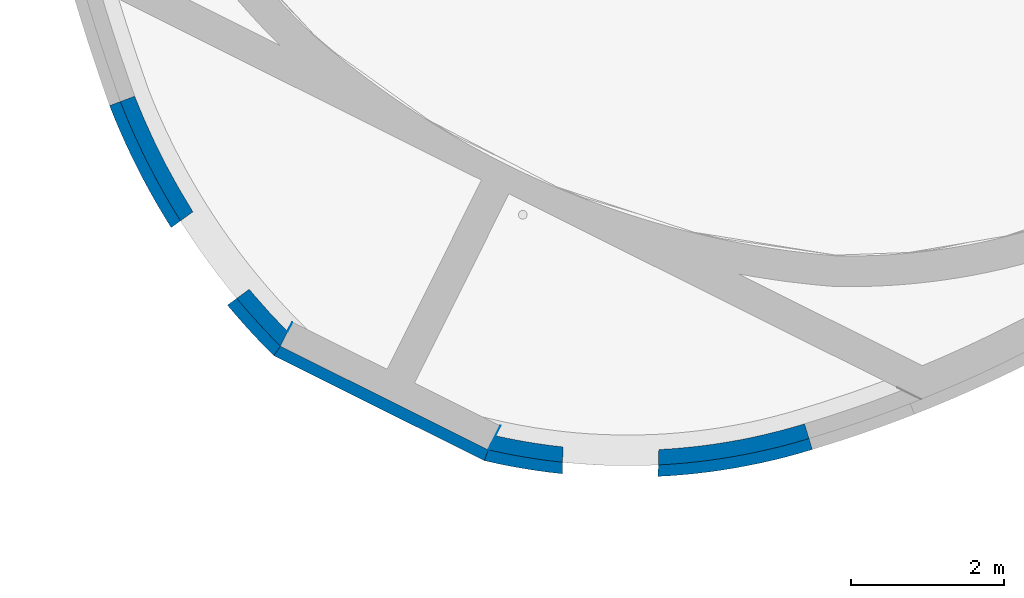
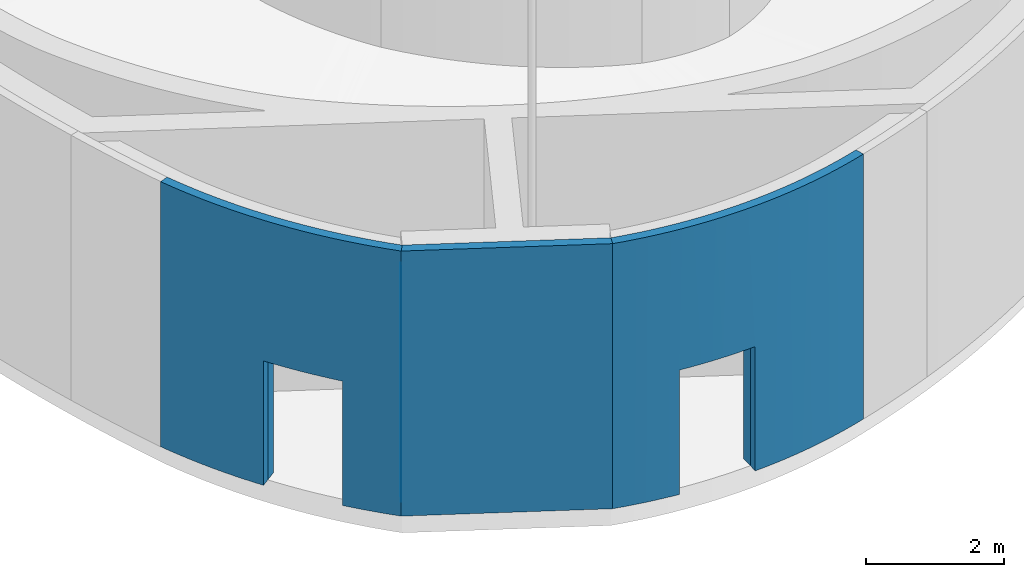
# One storey, part 4 of 91: 7 walls, 4 openings.
"""IFC2X3 building model written with IfcOpenShell, lengths in metres."""

from ifc_helpers import new_model, entity, si_unit, converted_unit, derived_unit, direction, frame, frame_2d, origin, origin_2d_with_axis, place, context, subcontext, project, spatial, polyline, circle_curve, parameter, trimmed, segment, composite_curve, rectangle, outline, extrude, clip, bounded_halfspace, material, layer, layer_set, layer_usage, type_object, element, save


model = new_model("IFC2X3")

# Units and contexts
model_context = context("Model", 3, precision=1e-05, world=origin(), true_north=direction((0.894925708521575, 0.446215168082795)))
context_of_model = context(None, 3, precision=1e-05, world=origin(), true_north=direction((0.894925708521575, 0.446215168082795)))
body_context = subcontext(model_context, "Body", "Model", "MODEL_VIEW")
ifc_project = project(units=[si_unit("LENGTHUNIT", "METRE"), si_unit("AREAUNIT", "SQUARE_METRE"), si_unit("VOLUMEUNIT", "CUBIC_METRE"), converted_unit("PLANEANGLEUNIT", "DEGREE", entity("IfcRatioMeasure", 0.0174532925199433), si_unit("PLANEANGLEUNIT", "RADIAN"), dimensions=[0, 0, 0, 0, 0, 0, 0]), si_unit("MASSUNIT", "GRAM", prefix="KILO"), si_unit("TIMEUNIT", "SECOND"), si_unit("FREQUENCYUNIT", "HERTZ"), si_unit("THERMODYNAMICTEMPERATUREUNIT", "DEGREE_CELSIUS"), derived_unit("THERMALTRANSMITTANCEUNIT", [(si_unit("MASSUNIT", "GRAM", prefix="KILO"), 1), (si_unit("THERMODYNAMICTEMPERATUREUNIT", "KELVIN"), -1), (si_unit("TIMEUNIT", "SECOND"), -3)]), derived_unit("VOLUMETRICFLOWRATEUNIT", [(si_unit("LENGTHUNIT", "METRE"), 3), (si_unit("TIMEUNIT", "SECOND"), -1)]), si_unit("ELECTRICCURRENTUNIT", "AMPERE"), si_unit("ELECTRICVOLTAGEUNIT", "VOLT"), si_unit("POWERUNIT", "WATT"), si_unit("FORCEUNIT", "NEWTON", prefix="KILO"), si_unit("ILLUMINANCEUNIT", "LUX"), si_unit("LUMINOUSFLUXUNIT", "LUMEN"), si_unit("LUMINOUSINTENSITYUNIT", "CANDELA"), si_unit("PRESSUREUNIT", "PASCAL")], contexts=[model_context, context_of_model])

# Site, building, storey
site_placement = place(None, frame((218.228324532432, 584.720189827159, 0.0), z_axis=(0.0, 0.0, 1.0), x_axis=(0.446215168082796, 0.894925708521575, 0.0)))
site = spatial("IfcSite", under=ifc_project, at=site_placement, Name="Default", CompositionType="ELEMENT")
building_placement = place(site_placement, origin())
building = spatial("IfcBuilding", under=site, at=building_placement, CompositionType="ELEMENT")
storey_placement = place(building_placement, origin())
storey = spatial("IfcBuildingStorey", under=building, at=storey_placement, Name="0 - Piano Terra", CompositionType="ELEMENT", Elevation=0.0)

# Wall, opening
ifc_material_1 = material(Name="Sabbia e Calcestruzzo")
ifc_layer_1 = layer(ifc_material_1, 0.2)
ifc_layer_set_1 = layer_set([ifc_layer_1], Name="Muro di base:Blocchetti - 20 cm")
ifc_layer_usage_1 = layer_usage(ifc_layer_set_1, "AXIS2", "POSITIVE", -0.1)
wall_type_1 = type_object("IfcWallType", Name="Muro di base:Blocchetti - 20 cm", PredefinedType="STANDARD", material=ifc_layer_set_1)
wall_1_placement = place(storey_placement, frame((-84.9551381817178, -2.00278189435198, 0.0)))
wall_1 = element("IfcWallStandardCase", 1, at=wall_1_placement, inside=storey, type_object=wall_type_1, material=ifc_layer_usage_1, Name="Muro di base:Blocchetti - 20 cm", ObjectType="Muro di base:Blocchetti - 20 cm", context=body_context, shape_type="SweptSolid", body=[
    extrude(outline(composite_curve([segment(trimmed(circle_curve(frame_2d((8.75699961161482, -2.92722085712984), x_axis=(1.0, 0.0)), 9.33329107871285), [parameter(137.924812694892)], [parameter(161.516654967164)], True, "PARAMETER"), True, "CONTINUOUS"), segment(polyline([(-0.0948415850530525, 0.0317028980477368), (0.116295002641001, 0.0317028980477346)]), True, "CONTINUOUS"), segment(polyline([(0.116295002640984, 0.0317028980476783), (0.117151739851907, 0.0342035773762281)]), True, "CONTINUOUS"), segment(polyline([(0.117151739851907, 0.0342035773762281), (0.118009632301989, 0.0367050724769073)]), True, "CONTINUOUS"), segment(polyline([(0.118009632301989, 0.0367050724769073), (0.232515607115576, 0.351525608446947)]), True, "CONTINUOUS"), segment(polyline([(0.232515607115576, 0.351525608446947), (0.358491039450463, 0.661937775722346)]), True, "CONTINUOUS"), segment(polyline([(0.358491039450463, 0.661937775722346), (0.495765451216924, 0.967521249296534)]), True, "CONTINUOUS"), segment(polyline([(0.495765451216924, 0.967521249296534), (0.644154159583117, 1.26786491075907)]), True, "CONTINUOUS"), segment(polyline([(0.644154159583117, 1.26786491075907), (0.803457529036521, 1.56256469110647)]), True, "CONTINUOUS"), segment(polyline([(0.803457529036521, 1.56256469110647), (0.973461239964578, 1.85122411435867)]), True, "CONTINUOUS"), segment(polyline([(0.973461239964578, 1.85122411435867), (1.15393657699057, 2.13345483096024)]), True, "CONTINUOUS"), segment(polyline([(1.15393657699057, 2.13345483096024), (1.34464073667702, 2.40887714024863)]), True, "CONTINUOUS"), segment(polyline([(1.34464073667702, 2.40887714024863), (1.54531715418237, 2.67712050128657)]), True, "CONTINUOUS"), segment(polyline([(1.54531715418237, 2.67712050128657), (1.75569584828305, 2.93782403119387)]), True, "CONTINUOUS"), segment(polyline([(1.75569584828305, 2.93782403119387), (1.97549378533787, 3.19063699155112)]), True, "CONTINUOUS"), segment(polyline([(1.9754937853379, 3.19063699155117), (1.82921396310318, 3.32706634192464)]), True, "CONTINUOUS")], self_intersect=False)), origin(), (0.0, 0.0, 1.0), 4.13),
])
opening_1_placement = place(wall_1_placement, frame((-1.14214802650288, 0.116912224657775, 0.0)))
element("IfcOpeningElement", 2, at=opening_1_placement, cuts=wall_1, Name="Muro di base:Blocchetti - 20 cm", ObjectType="Opening", context=body_context, shape_type="SweptSolid", body=[
    extrude(rectangle(XDim=3.04799999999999, YDim=1.24999999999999, at=origin_2d_with_axis()), frame((1.64035043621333, 1.25842036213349, 0.0), z_axis=(0.0, 0.0, 1.0), x_axis=(-0.886865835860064, 0.462027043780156, 0.0)), (0.0, 0.0, 1.0), 2.2),
])

ifc_layer_usage_2 = layer_usage(ifc_layer_set_1, "AXIS2", "NEGATIVE", 0.1)
wall_2_placement = place(storey_placement, frame((-84.9515530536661, -4.98268612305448, 0.0)))
wall_2 = element("IfcWallStandardCase", 3, at=wall_2_placement, inside=storey, type_object=wall_type_1, material=ifc_layer_usage_2, Name="Muro di base:Blocchetti - 20 cm", ObjectType="Muro di base:Blocchetti - 20 cm", context=body_context, shape_type="SweptSolid", body=[
    extrude(outline(composite_curve([segment(trimmed(circle_curve(frame_2d((7.75120961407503, 1.8649767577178), x_axis=(1.0, 0.0)), 7.8724142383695), [parameter(193.878969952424)], [parameter(223.563617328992)], True, "PARAMETER"), False, "CONTINUOUS"), segment(polyline([(0.108633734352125, -0.0233928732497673), (-0.0972253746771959, -0.0233928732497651)]), True, "CONTINUOUS"), segment(trimmed(circle_curve(frame_2d((7.75120961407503, 1.8649767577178), x_axis=(1.0, 0.0)), 8.0724142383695), [parameter(193.528483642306)], [parameter(223.558768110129)], True, "PARAMETER"), True, "CONTINUOUS"), segment(polyline([(1.90138976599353, -3.69770958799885), (2.04678250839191, -3.56037275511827)]), True, "CONTINUOUS")], self_intersect=False)), origin(), (0.0, 0.0, 1.0), 4.13),
])
opening_2_placement = place(wall_2_placement, frame((-1.19348438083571, -2.73420973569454, 0.0)))
element("IfcOpeningElement", 4, at=opening_2_placement, cuts=wall_2, Name="Muro di base:Blocchetti - 20 cm", ObjectType="Opening", context=body_context, shape_type="SweptSolid", body=[
    extrude(rectangle(XDim=3.04799999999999, YDim=1.25, at=origin_2d_with_axis()), frame((1.6454641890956, 1.2088338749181, 0.0), z_axis=(0.0, 0.0, 1.0), x_axis=(-0.906941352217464, -0.421256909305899, 0.0)), (0.0, 0.0, 1.0), 2.2),
])

# Wall
ifc_material_2 = material(Name="Alluminio")
ifc_layer_2 = layer(ifc_material_2, 0.15)
ifc_layer_set_2 = layer_set([ifc_layer_2], Name="Muro di base:Rivestimento 15 cm")
ifc_layer_usage_3 = layer_usage(ifc_layer_set_2, "AXIS2", "NEGATIVE", 0.075)
wall_type_2 = type_object("IfcWallType", Name="Muro di base:Rivestimento 15 cm", PredefinedType="STANDARD", material=ifc_layer_set_2)
wall_3_placement = place(storey_placement, frame((-85.1249797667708, -5.01873922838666, 0.0), z_axis=(0.0, 0.0, 1.0), x_axis=(0.0, 1.0, 0.0)))
element("IfcWallStandardCase", 5, at=wall_3_placement, inside=storey, type_object=wall_type_2, material=ifc_layer_usage_3, Name="Muro di base:Rivestimento 15 cm", ObjectType="Muro di base:Rivestimento 15 cm", context=body_context, shape_type="SweptSolid", body=[
    extrude(outline(polyline([(3.04766023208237, -0.0750000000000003), (3.07196706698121, 0.0750000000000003), (0.0, 0.0750000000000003), (0.0176602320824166, -0.0750000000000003), (3.04766023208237, -0.0750000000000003)])), origin(), (0.0, 0.0, 1.0), 4.69),
])

# Wall, opening
ifc_layer_usage_4 = layer_usage(ifc_layer_set_2, "AXIS2", "POSITIVE", -0.075)
wall_4_placement = place(storey_placement, frame((-85.128787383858, -1.97036547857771, 0.0)))
wall_4 = element("IfcWallStandardCase", 6, at=wall_4_placement, inside=storey, type_object=wall_type_2, material=ifc_layer_usage_4, Name="Muro di base:Rivestimento 15 cm", ObjectType="Muro di base:Rivestimento 15 cm", context=body_context, shape_type="SweptSolid", body=[
    extrude(outline(composite_curve([segment(trimmed(circle_curve(frame_2d((8.93064881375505, -2.9596372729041), x_axis=(1.0, 0.0)), 9.48329107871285), [parameter(137.910018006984)], [parameter(161.664686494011)], True, "PARAMETER"), True, "CONTINUOUS"), segment(polyline([(-0.0711923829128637, 0.023593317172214), (0.0788076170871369, -0.000713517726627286)]), True, "CONTINUOUS"), segment(trimmed(circle_curve(frame_2d((8.93064881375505, -2.9596372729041), x_axis=(1.0, 0.0)), 9.33329107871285), [parameter(137.924812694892)], [parameter(161.516654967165)], True, "PARAMETER"), False, "CONTINUOUS"), segment(polyline([(2.0028631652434, 3.29464992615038), (1.89316439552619, 3.39698311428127)]), True, "CONTINUOUS")], self_intersect=False)), origin(), (0.0, 0.0, 1.0), 4.69),
])
opening_3_placement = place(wall_4_placement, frame((-0.968498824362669, 0.0844958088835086, 0.0)))
element("IfcOpeningElement", 7, at=opening_3_placement, cuts=wall_4, Name="Muro di base:Rivestimento 15 cm", ObjectType="Opening", context=body_context, shape_type="SweptSolid", body=[
    extrude(rectangle(XDim=3.04799999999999, YDim=1.24999999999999, at=origin_2d_with_axis()), frame((1.64035043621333, 1.25842036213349, 0.0), z_axis=(0.0, 0.0, 1.0), x_axis=(-0.886865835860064, 0.462027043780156, 0.0)), (0.0, 0.0, 1.0), 2.2),
])

ifc_layer_usage_5 = layer_usage(ifc_layer_set_2, "AXIS2", "POSITIVE", -0.075)
wall_5_placement = place(storey_placement, frame((-83.1045133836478, -8.73207807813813, 0.0)))
wall_5 = element("IfcWallStandardCase", 8, at=wall_5_placement, inside=storey, type_object=wall_type_2, material=ifc_layer_usage_5, Name="Muro di base:Rivestimento 15 cm", ObjectType="Muro di base:Rivestimento 15 cm", context=body_context, shape_type="SweptSolid", body=[
    extrude(outline(composite_curve([segment(trimmed(circle_curve(frame_2d((5.90416994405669, 5.61436871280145), x_axis=(1.0, 0.0)), 8.2224142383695), [parameter(193.367786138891)], [parameter(223.555266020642)], True, "PARAMETER"), True, "CONTINUOUS"), segment(polyline([(-0.0546964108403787, -0.0513181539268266), (0.0543500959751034, 0.0516823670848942)]), True, "CONTINUOUS"), segment(trimmed(circle_curve(frame_2d((5.90416994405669, 5.61436871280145), x_axis=(1.0, 0.0)), 8.0724142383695), [parameter(193.682970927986)], [parameter(223.558768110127)], True, "PARAMETER"), False, "CONTINUOUS"), segment(trimmed(circle_curve(frame_2d((5.90416994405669, 5.61436871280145), x_axis=(1.0, 0.0)), 8.0724142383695), [parameter(193.491985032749)], [parameter(193.682970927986)], True, "PARAMETER"), False, "CONTINUOUS"), segment(polyline([(-1.94546638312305, 3.73099908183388), (-2.09546638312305, 3.71333884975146)]), True, "CONTINUOUS")], self_intersect=False)), origin(), (0.0, 0.0, 1.0), 4.69),
])
opening_4_placement = place(wall_5_placement, frame((-3.04052405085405, 1.01518221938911, 0.0)))
element("IfcOpeningElement", 9, at=opening_4_placement, cuts=wall_5, Name="Muro di base:Rivestimento 15 cm", ObjectType="Opening", context=body_context, shape_type="SweptSolid", body=[
    extrude(rectangle(XDim=3.04799999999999, YDim=1.25, at=origin_2d_with_axis()), frame((1.6454641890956, 1.2088338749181, 0.0), z_axis=(0.0, 0.0, 1.0), x_axis=(-0.906941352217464, -0.421256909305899, 0.0)), (0.0, 0.0, 1.0), 2.2),
])

# Walls
ifc_layer_3 = layer(ifc_material_1, 0.005)
ifc_layer_set_3 = layer_set([ifc_layer_3], Name="Muro di base:Malta di raccordo")
ifc_layer_usage_6 = layer_usage(ifc_layer_set_3, "AXIS2", "NEGATIVE", 0.0025)
wall_type_3 = type_object("IfcWallType", Name="Muro di base:Malta di raccordo", PredefinedType="STANDARD", material=ifc_layer_set_3)
wall_6_placement = place(storey_placement, frame((-84.6999797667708, -5.00357899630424, 0.0), z_axis=(0.0, 0.0, 1.0), x_axis=(-1.0, 0.0, 0.0)))
element("IfcWallStandardCase", 10, at=wall_6_placement, inside=storey, type_object=wall_type_3, material=ifc_layer_usage_6, Name="Muro di base:Malta di raccordo", ObjectType="Muro di base:Malta di raccordo", context=body_context, shape_type="Clipping", body=[
    clip(extrude(outline(composite_curve([segment(trimmed(circle_curve(frame_2d((-7.49963632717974, -1.88586963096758), x_axis=(-1.0, 0.0)), 8.0724142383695), [parameter(193.491985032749)], [parameter(193.528483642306)], True, "PARAMETER"), True, "CONTINUOUS"), segment(polyline([(0.348798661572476, 0.00250000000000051), (0.142939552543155, 0.00250000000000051)]), True, "CONTINUOUS"), segment(polyline([(0.142939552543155, 0.00250000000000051), (0.0, 0.00250000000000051)]), True, "CONTINUOUS"), segment(polyline([(0.0, 0.00250000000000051), (0.0, -0.00249999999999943)]), True, "CONTINUOUS"), segment(polyline([(0.0, -0.00249999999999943), (0.34999999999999, -0.00249999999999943)]), True, "CONTINUOUS")], self_intersect=False)), origin(), (0.0, 0.0, 1.0), 4.53), bounded_halfspace(frame((0.0, -0.00249999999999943, 4.13), z_axis=(0.0, 0.0, -1.0), x_axis=(0.0, 1.0, 0.0)), True, frame((0.0, -0.00249999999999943, 4.13), z_axis=(0.0, 0.0, -1.0), x_axis=(0.0, 1.0, 0.0)), composite_curve([segment(polyline([(0.0, 0.0), (0.00152400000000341, 0.0)]), True, "CONTINUOUS"), segment(polyline([(0.00152400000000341, 0.0), (0.00152400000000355, 0.0435679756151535)]), True, "CONTINUOUS"), segment(polyline([(0.00152400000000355, 0.0435679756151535), (0.00152400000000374, 0.106313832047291)]), True, "CONTINUOUS"), segment(trimmed(circle_curve(frame_2d((-0.574051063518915, -2.28588915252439), x_axis=(0.0, -1.0)), 8.0724142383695), [parameter(166.471516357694)], [parameter(166.508014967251)], True, "PARAMETER"), True, "CONTINUOUS"), segment(polyline([(0.0, 0.106679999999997), (0.0, 0.0)]), True, "CONTINUOUS")], self_intersect=False))),
])
ifc_layer_usage_7 = layer_usage(ifc_layer_set_3, "AXIS2", "NEGATIVE", 0.0025)
wall_7_placement = place(storey_placement, frame((-84.6999797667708, -1.96857899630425, 0.0), z_axis=(0.0, 0.0, 1.0), x_axis=(-1.0, 0.0, 0.0)))
element("IfcWallStandardCase", 11, at=wall_7_placement, inside=storey, type_object=wall_type_3, material=ifc_layer_usage_7, Name="Muro di base:Malta di raccordo", ObjectType="Muro di base:Malta di raccordo", context=body_context, shape_type="SweptSolid", body=[
    extrude(outline(composite_curve([segment(trimmed(circle_curve(frame_2d((-8.50184119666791, 2.96142375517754), x_axis=(-1.0, 0.0)), 9.13329107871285), [parameter(161.063581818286)], [parameter(161.096739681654)], True, "PARAMETER"), True, "CONTINUOUS"), segment(polyline([(0.138863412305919, 0.0024999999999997), (0.0, 0.00249999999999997)]), True, "CONTINUOUS"), segment(polyline([(0.0, 0.00249999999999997), (0.0, -0.00249999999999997)]), True, "CONTINUOUS"), segment(polyline([(0.0, -0.00249999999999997), (0.137149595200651, -0.00250000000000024)]), True, "CONTINUOUS")], self_intersect=False)), origin(), (0.0, 0.0, 1.0), 4.13),
])

save(model, "model.ifc")
